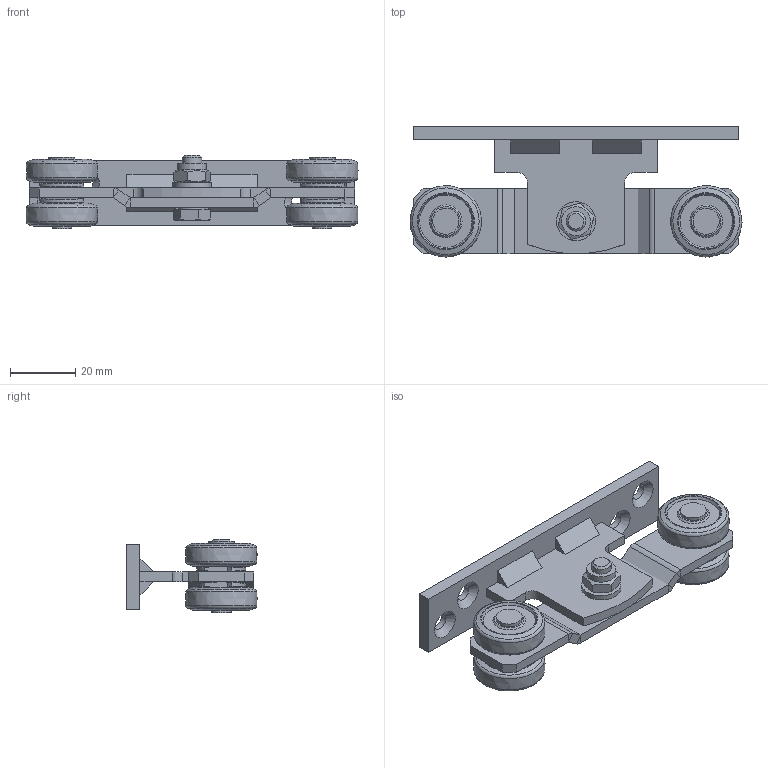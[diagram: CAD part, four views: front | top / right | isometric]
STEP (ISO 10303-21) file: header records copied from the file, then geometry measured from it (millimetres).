
FILE_DESCRIPTION(/* description */ ('Doppelrolle mit Flansch Nr.0'),/* implementation_level */ '2;1');
FILE_NAME(/* name */ 'Q:\sge-ma\Produktmanagement-STB\STB\Workspace\TraceParts\Doppelrolle mit Flanschpendel\010336990.stp',/* time_stamp */ '2018-02-22T15:22:14+01:00',/* author */ ('avschreier'),/* organization */ (''),/* preprocessor_version */ 'ST-DEVELOPER v16.1',/* originating_system */ 'Autodesk Inventor 2016',/* authorisation */ '');
FILE_SCHEMA (('CONFIG_CONTROL_DESIGN'));
Length unit declared in the file: millimetre
Products named in the file (11): 010336990_Schweißnähte; 000302094; 000302027; 337000122; 336290000; 000303234; 000304010; DIN_EN_ISO_4017-M6x16_en; DIN_EN_ISO_7090-6,4_en; DIN_EN_ISO_7040-M6_en; 010336990
Assembly tree (17 placements, depth 2):
  010336990
    010336990_Schweißnähte
    000302094
    000302027
    337000122
    336290000  x4
    000303234  x4
    000304010  x2
    DIN_EN_ISO_4017-M6x16_en
    DIN_EN_ISO_7090-6,4_en
    DIN_EN_ISO_7040-M6_en
Bounding box: 101.99 x 40 x 22.5 mm (x, y, z)
Volume: 29004 mm3; surface area: 22281.5 mm2
Topology: 20 solids, 20 shells, 286 faces, 621 edges, 392 vertices
Faces by surface type: plane 174, cone 52, cylinder 46, torus 10, bspline 4
Full cylindrical faces by diameter (mm): 4.917 x1, 5 x4, 5.459 x1, 6 x7, 6.1 x5, 6.4 x2, 8 x2, 8.7 x1, 8.9 x1, 12 x1
Entity records: 4973 total; most frequent: CARTESIAN_POINT 880, DIRECTION 838, ORIENTED_EDGE 696, EDGE_CURVE 348, AXIS2_PLACEMENT_3D 311, EDGE_LOOP 251, VERTEX_POINT 239, LINE 216
